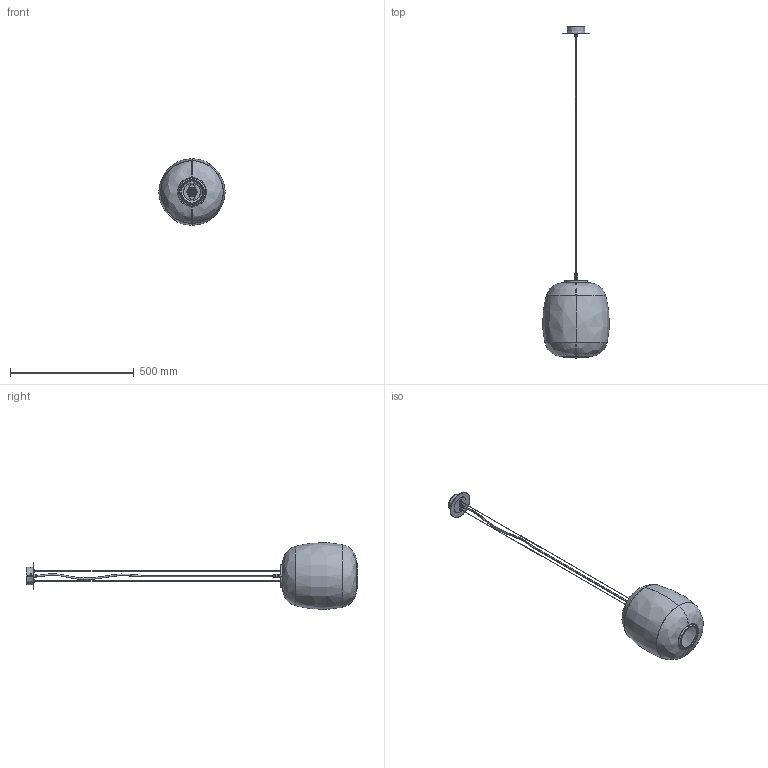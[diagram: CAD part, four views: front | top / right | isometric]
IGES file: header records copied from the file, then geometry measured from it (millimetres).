
Start section: SolidWorks IGES file using analytic representation for surfaces
Global section: file name: C:\Users\berta.gumma\OneDrive - santa &cole\Desktop\globo cesta ce.IGS; native system: SolidWorks 2021; preprocessor: SolidWorks 2021; author: berta.gumma; date: 230919.131338; units: millimetre
Bounding box: 269.01 x 1341 x 269.02 mm (x, y, z)
Surface area: 681633.1 mm2 (no closed solid volume)
Topology: 0 solids, 0 shells, 1067 faces, 12389 edges, 12387 vertices
Faces by surface type: revolution 622, bspline 445
